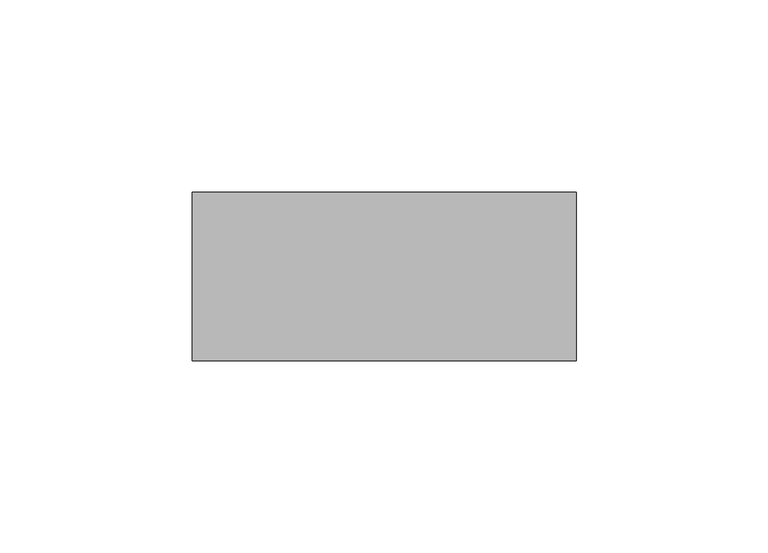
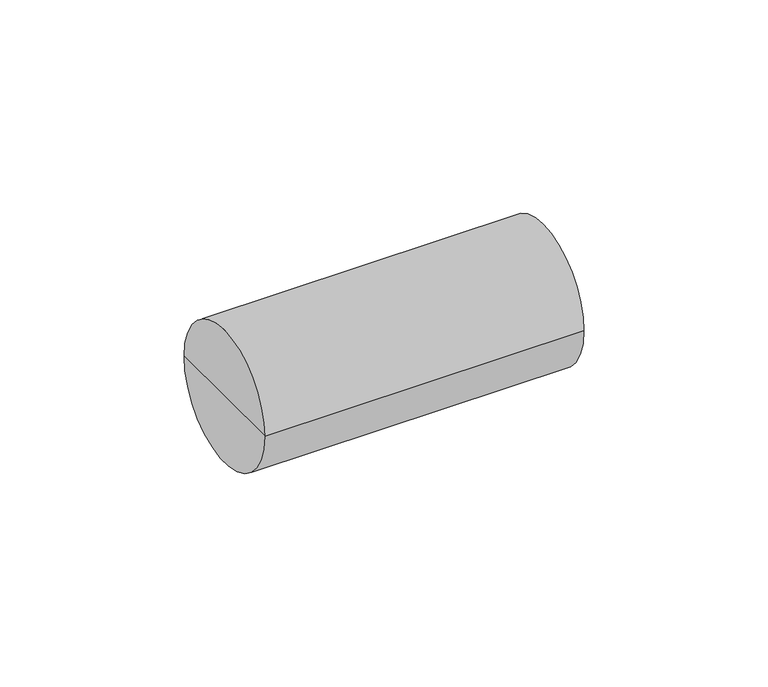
"""IFC4 building model written with IfcOpenShell, lengths in millimetres: cable carrier fitting geometry, Муфта_соед._для_труб : Муфта соед. для трубы 40мм."""

from ifc_helpers import new_model, si_unit, frame, origin, place, context, project, spatial, circle_curve, source, transform, mapped, element, save
from ifc_brep_helpers import plane_surface, cylinder_surface, advanced_brep


def cable_carrier_fitting_52ab9c74(model_context):
    return source(origin(), model_context, "Body", "AdvancedBrep", [
        advanced_brep(
        [(-50.0, -22.0, 0.0), (-50.0, 22.0, 0.0), (50.0, 22.0, 0.0), (50.0, -22.0, 0.0), (-50.0, 0.0, 0.0), (50.0, 0.0, 0.0)],
        [
            (0, 1, circle_curve(frame((-50.0, 0.0, 0.0), z_axis=(1.0, 0.0, 0.0), x_axis=(0.0, 1.0, 0.0)), 22.0)),
            (1, 2),
            (2, 3, circle_curve(frame((50.0, 0.0, 0.0), z_axis=(-1.0, 0.0, 0.0), x_axis=(0.0, 1.0, 0.0)), 22.0)),
            (3, 0),
            (1, 0, circle_curve(frame((-50.0, 0.0, 0.0), z_axis=(1.0, 0.0, 0.0), x_axis=(0.0, 1.0, 0.0)), 22.0)),
            (3, 2, circle_curve(frame((50.0, 0.0, 0.0), z_axis=(-1.0, 0.0, 0.0), x_axis=(0.0, 1.0, 0.0)), 22.0)),
            (4, 1),
            (0, 4),
            (2, 5),
            (5, 3),
        ],
        [
            cylinder_surface(frame((1975.0, 0.0, 0.0), z_axis=(-1.0, 0.0, 0.0), x_axis=(0.0, 1.0, 0.0)), 22.0),
            plane_surface(frame((-50.0, 0.0, 0.0), z_axis=(-1.0, 0.0, 0.0), x_axis=(0.0, 1.0, 0.0))),
            plane_surface(frame((50.0, 0.0, 0.0), z_axis=(1.0, 0.0, 0.0), x_axis=(0.0, 1.0, 0.0))),
        ],
        [
            (0, [[1, 2, 3, 4]]),
            (0, [[5, -4, 6, -2]]),
            (1, [[7, -1, 8]]),
            (1, [[-8, -5, -7]]),
            (2, [[-3, 9, 10]]),
            (2, [[-6, -10, -9]]),
        ],
    ),
    ])


if __name__ == "__main__":
    model = new_model("IFC4")
    model_context = context("Model", 3, world=origin())
    ifc_project = project(units=[si_unit("LENGTHUNIT", "METRE", prefix="MILLI")], contexts=[model_context])
    site = spatial("IfcSite", under=ifc_project)
    building = spatial("IfcBuilding", under=site)
    placement = place(None, origin())
    cable_carrier_fitting_shape = cable_carrier_fitting_52ab9c74(model_context)
    element("IfcCableCarrierFitting", 1, ObjectType="Муфта_соед._для_труб : Муфта соед. для трубы 40мм", at=placement, inside=building, context=model_context, shape_type="MappedRepresentation", body=[
        mapped(cable_carrier_fitting_shape, transform((0.0, 0.0, 0.0), x_axis=(1.0, 0.0, 0.0), y_axis=(0.0, 1.0, 0.0), z_axis=(0.0, 0.0, 1.0))),
    ])
    save(model, "model.ifc")
